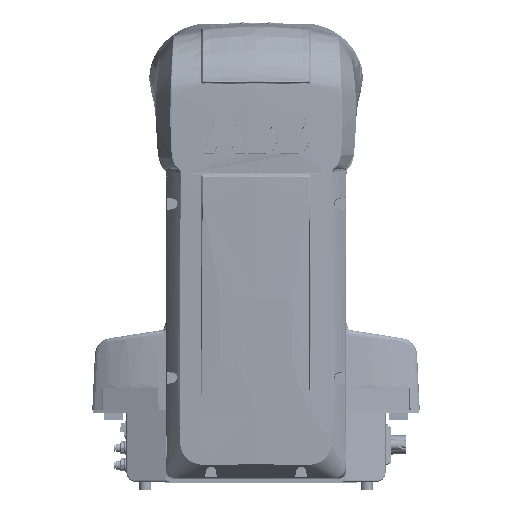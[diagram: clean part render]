
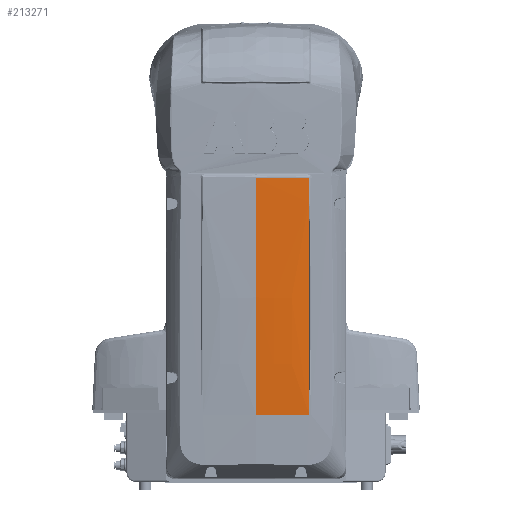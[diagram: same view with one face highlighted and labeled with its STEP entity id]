
A CAD part, left-side view. The second image highlights one B-rep face of the part: STEP entity #213271.
In plain terms, the highlighted free-form (B-spline) face has degree [3, 3] with [4, 6] control points.
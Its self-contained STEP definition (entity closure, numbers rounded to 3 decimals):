
#37291 = CARTESIAN_POINT ( 'NONE',  ( -353.73, -65., -8. ) ) ;
#37379 = CARTESIAN_POINT ( 'NONE',  ( -358.842, -64.618, 280. ) ) ;
#37464 = CARTESIAN_POINT ( 'NONE',  ( -358.891, -64.596, 251. ) ) ;
#37512 = CARTESIAN_POINT ( 'NONE',  ( -359.787, 0., 280. ) ) ;
#157677 = B_SPLINE_CURVE_WITH_KNOTS ( 'NONE', 3,
 ( #435280, #435293, #435357, #435362 ),
 .UNSPECIFIED., .F., .F.,
 ( 4, 4 ),
 ( 0., 1. ),
 .UNSPECIFIED. ) ;
#157691 = B_SPLINE_CURVE_WITH_KNOTS ( 'NONE', 3,
 ( #435459, #435454, #435578, #435584, #435592, #435599, #435607, #435614, #435621, #435626 ),
 .UNSPECIFIED., .F., .F.,
 ( 4, 2, 2, 2, 4 ),
 ( 0., 0.125, 0.25, 0.5, 1. ),
 .UNSPECIFIED. ) ;
#165258 = CARTESIAN_POINT ( 'NONE',  ( -354.688, 0., -8. ) ) ;
#192897 = EDGE_CURVE ( 'NONE', #404751, #404740, #362318, .T. ) ;
#199935 = CARTESIAN_POINT ( 'NONE',  ( -358.842, -64.618, 280. ) ) ;
#199942 = CARTESIAN_POINT ( 'NONE',  ( -358.865, -64.609, 270.334 ) ) ;
#199979 = CARTESIAN_POINT ( 'NONE',  ( -358.884, -64.602, 260.667 ) ) ;
#199984 = CARTESIAN_POINT ( 'NONE',  ( -358.891, -64.596, 251. ) ) ;
#199988 = CARTESIAN_POINT ( 'NONE',  ( -358.891, -64.596, 251. ) ) ;
#199998 = CARTESIAN_POINT ( 'NONE',  ( -358.909, -64.582, 229.408 ) ) ;
#200043 = CARTESIAN_POINT ( 'NONE',  ( -358.873, -64.574, 207.815 ) ) ;
#200046 = CARTESIAN_POINT ( 'NONE',  ( -358.643, -64.575, 175.425 ) ) ;
#200051 = CARTESIAN_POINT ( 'NONE',  ( -358.536, -64.577, 164.629 ) ) ;
#200056 = CARTESIAN_POINT ( 'NONE',  ( -358.32, -64.584, 148.434 ) ) ;
#200061 = CARTESIAN_POINT ( 'NONE',  ( -358.238, -64.587, 143.036 ) ) ;
#200065 = CARTESIAN_POINT ( 'NONE',  ( -358.054, -64.594, 132.24 ) ) ;
#200069 = CARTESIAN_POINT ( 'NONE',  ( -357.951, -64.599, 126.842 ) ) ;
#200074 = CARTESIAN_POINT ( 'NONE',  ( -357.612, -64.616, 110.649 ) ) ;
#200079 = CARTESIAN_POINT ( 'NONE',  ( -357.347, -64.632, 99.855 ) ) ;
#200083 = CARTESIAN_POINT ( 'NONE',  ( -356.759, -64.674, 78.27 ) ) ;
#200087 = CARTESIAN_POINT ( 'NONE',  ( -356.436, -64.701, 67.478 ) ) ;
#200091 = CARTESIAN_POINT ( 'NONE',  ( -355.922, -64.749, 51.292 ) ) ;
#200097 = CARTESIAN_POINT ( 'NONE',  ( -355.746, -64.766, 45.897 ) ) ;
#200101 = CARTESIAN_POINT ( 'NONE',  ( -355.383, -64.804, 35.106 ) ) ;
#200107 = CARTESIAN_POINT ( 'NONE',  ( -355.195, -64.824, 29.711 ) ) ;
#200113 = CARTESIAN_POINT ( 'NONE',  ( -354.805, -64.868, 18.921 ) ) ;
#200119 = CARTESIAN_POINT ( 'NONE',  ( -354.603, -64.892, 13.527 ) ) ;
#200123 = CARTESIAN_POINT ( 'NONE',  ( -354.18, -64.943, 2.755 ) ) ;
#200128 = CARTESIAN_POINT ( 'NONE',  ( -353.96, -64.971, -2.623 ) ) ;
#200132 = CARTESIAN_POINT ( 'NONE',  ( -353.73, -65., -8. ) ) ;
#212479 = B_SPLINE_SURFACE_WITH_KNOTS ( 'NONE', 3, 3, ( 
 ( #230189, #230213, #230217, #230221, #230224, #230229 ),
 ( #230234, #230237, #230242, #230247, #230252, #230257 ),
 ( #230261, #230265, #230269, #230273, #230276, #230280 ),
 ( #230283, #230287, #230289, #230292, #230295, #230298 ) ),
 .UNSPECIFIED., .F., .F., .F.,
 ( 4, 4 ),
 ( 4, 1, 1, 4 ),
 ( 0.497, 1. ),
 ( -0.119, 0.452, 0.761, 1. ),
 .UNSPECIFIED. ) ;
#213271 = ADVANCED_FACE ( 'NONE', ( #467800 ), #212479, .F. ) ;
#226292 = B_SPLINE_CURVE_WITH_KNOTS ( 'NONE', 3,
 ( #199935, #199942, #199979, #199984 ),
 .UNSPECIFIED., .F., .F.,
 ( 4, 4 ),
 ( 0., 1. ),
 .UNSPECIFIED. ) ;
#226318 = B_SPLINE_CURVE_WITH_KNOTS ( 'NONE', 3,
 ( #199988, #199998, #200043, #200046, #200051, #200056, #200061, #200065, #200069, #200074, #200079, #200083, #200087, #200091, #200097, #200101, #200107, #200113, #200119, #200123, #200128, #200132 ),
 .UNSPECIFIED., .F., .F.,
 ( 4, 2, 2, 2, 2, 2, 2, 2, 2, 2, 4 ),
 ( 0., 0.25, 0.375, 0.438, 0.5, 0.625, 0.75, 0.813, 0.875, 0.938, 1. ),
 .UNSPECIFIED. ) ;
#230189 = CARTESIAN_POINT ( 'NONE',  ( -359.783, 0.39, 281.729 ) ) ;
#230213 = CARTESIAN_POINT ( 'NONE',  ( -359.9, 0.39, 232.48 ) ) ;
#230217 = CARTESIAN_POINT ( 'NONE',  ( -359.913, 0.39, 156.556 ) ) ;
#230221 = CARTESIAN_POINT ( 'NONE',  ( -357.234, 0.39, 59.988 ) ) ;
#230224 = CARTESIAN_POINT ( 'NONE',  ( -355.569, 0.39, 12.663 ) ) ;
#230229 = CARTESIAN_POINT ( 'NONE',  ( -354.687, 0.39, -8. ) ) ;
#230234 = CARTESIAN_POINT ( 'NONE',  ( -359.786, -21.408, 281.729 ) ) ;
#230237 = CARTESIAN_POINT ( 'NONE',  ( -359.904, -21.41, 232.48 ) ) ;
#230242 = CARTESIAN_POINT ( 'NONE',  ( -359.917, -21.418, 156.556 ) ) ;
#230247 = CARTESIAN_POINT ( 'NONE',  ( -357.238, -21.396, 59.988 ) ) ;
#230252 = CARTESIAN_POINT ( 'NONE',  ( -355.573, -21.402, 12.663 ) ) ;
#230257 = CARTESIAN_POINT ( 'NONE',  ( -354.691, -21.409, -8. ) ) ;
#230261 = CARTESIAN_POINT ( 'NONE',  ( -359.468, -43.207, 281.729 ) ) ;
#230265 = CARTESIAN_POINT ( 'NONE',  ( -359.585, -43.21, 232.48 ) ) ;
#230269 = CARTESIAN_POINT ( 'NONE',  ( -359.598, -43.226, 156.556 ) ) ;
#230273 = CARTESIAN_POINT ( 'NONE',  ( -356.92, -43.182, 59.988 ) ) ;
#230276 = CARTESIAN_POINT ( 'NONE',  ( -355.254, -43.195, 12.663 ) ) ;
#230280 = CARTESIAN_POINT ( 'NONE',  ( -354.372, -43.208, -8. ) ) ;
#230283 = CARTESIAN_POINT ( 'NONE',  ( -358.827, -64.996, 281.729 ) ) ;
#230287 = CARTESIAN_POINT ( 'NONE',  ( -358.945, -65., 232.48 ) ) ;
#230289 = CARTESIAN_POINT ( 'NONE',  ( -358.957, -65.026, 156.556 ) ) ;
#230292 = CARTESIAN_POINT ( 'NONE',  ( -356.28, -64.956, 59.988 ) ) ;
#230295 = CARTESIAN_POINT ( 'NONE',  ( -354.612, -64.98, 12.663 ) ) ;
#230298 = CARTESIAN_POINT ( 'NONE',  ( -353.73, -65., -8. ) ) ;
#261258 = EDGE_CURVE ( 'NONE', #404740, #404743, #226292, .T. ) ;
#261263 = EDGE_CURVE ( 'NONE', #404743, #404720, #226318, .T. ) ;
#346178 = ORIENTED_EDGE ( 'NONE', *, *, #192897, .F. ) ;
#346184 = ORIENTED_EDGE ( 'NONE', *, *, #500456, .F. ) ;
#346190 = ORIENTED_EDGE ( 'NONE', *, *, #500415, .F. ) ;
#346196 = ORIENTED_EDGE ( 'NONE', *, *, #261263, .F. ) ;
#346206 = ORIENTED_EDGE ( 'NONE', *, *, #261258, .F. ) ;
#362318 = B_SPLINE_CURVE_WITH_KNOTS ( 'NONE', 3,
 ( #448193, #448201, #448247, #448252 ),
 .UNSPECIFIED., .F., .F.,
 ( 4, 4 ),
 ( 0., 1. ),
 .UNSPECIFIED. ) ;
#404720 = VERTEX_POINT ( 'NONE', #37291 ) ;
#404740 = VERTEX_POINT ( 'NONE', #37379 ) ;
#404743 = VERTEX_POINT ( 'NONE', #37464 ) ;
#404751 = VERTEX_POINT ( 'NONE', #37512 ) ;
#435280 = CARTESIAN_POINT ( 'NONE',  ( -353.73, -65., -8. ) ) ;
#435293 = CARTESIAN_POINT ( 'NONE',  ( -354.368, -43.34, -8. ) ) ;
#435357 = CARTESIAN_POINT ( 'NONE',  ( -354.688, -21.67, -8. ) ) ;
#435362 = CARTESIAN_POINT ( 'NONE',  ( -354.688, 0., -8. ) ) ;
#435454 = CARTESIAN_POINT ( 'NONE',  ( -355.199, 0., 3.993 ) ) ;
#435459 = CARTESIAN_POINT ( 'NONE',  ( -354.688, 0., -8. ) ) ;
#435578 = CARTESIAN_POINT ( 'NONE',  ( -355.659, 0., 15.987 ) ) ;
#435584 = CARTESIAN_POINT ( 'NONE',  ( -356.508, 0., 39.977 ) ) ;
#435592 = CARTESIAN_POINT ( 'NONE',  ( -356.9, 0., 51.973 ) ) ;
#435599 = CARTESIAN_POINT ( 'NONE',  ( -358.008, 0., 87.965 ) ) ;
#435607 = CARTESIAN_POINT ( 'NONE',  ( -358.642, 0., 111.964 ) ) ;
#435614 = CARTESIAN_POINT ( 'NONE',  ( -359.898, 0., 183.968 ) ) ;
#435621 = CARTESIAN_POINT ( 'NONE',  ( -359.898, 0., 231.983 ) ) ;
#435626 = CARTESIAN_POINT ( 'NONE',  ( -359.787, 0., 280. ) ) ;
#445432 = VERTEX_POINT ( 'NONE', #165258 ) ;
#448193 = CARTESIAN_POINT ( 'NONE',  ( -359.787, 0., 280. ) ) ;
#448201 = CARTESIAN_POINT ( 'NONE',  ( -359.787, -21.542, 280. ) ) ;
#448247 = CARTESIAN_POINT ( 'NONE',  ( -359.472, -43.085, 280. ) ) ;
#448252 = CARTESIAN_POINT ( 'NONE',  ( -358.842, -64.618, 280. ) ) ;
#467800 = FACE_OUTER_BOUND ( 'NONE', #510359, .T. ) ;
#500415 = EDGE_CURVE ( 'NONE', #404720, #445432, #157677, .T. ) ;
#500456 = EDGE_CURVE ( 'NONE', #445432, #404751, #157691, .T. ) ;
#510359 = EDGE_LOOP ( 'NONE', ( #346178, #346184, #346190, #346196, #346206 ) ) ;
